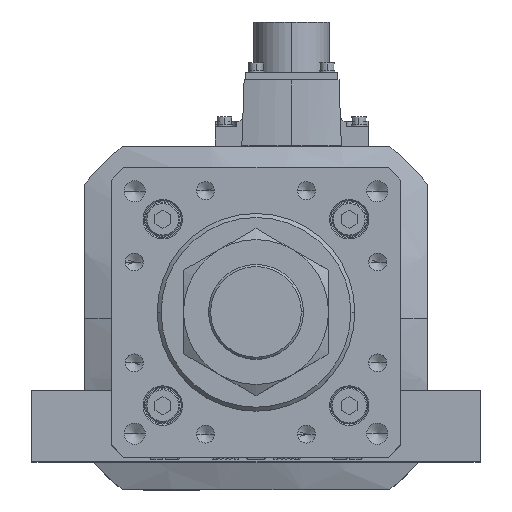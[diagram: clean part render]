
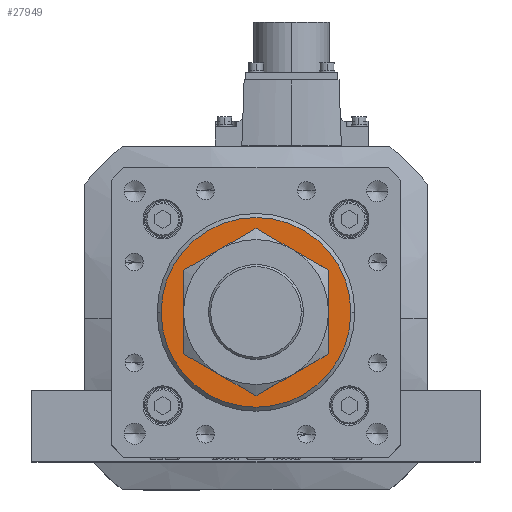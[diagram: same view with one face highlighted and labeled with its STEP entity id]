
A CAD part, top view. The second image highlights one B-rep face of the part: STEP entity #27949.
In plain terms, the highlighted planar face has unit normal (0, 0, 1).
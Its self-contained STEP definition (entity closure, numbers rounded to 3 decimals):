
#148 = DIRECTION ( 'NONE',  ( 1., 0., 0. ) ) ;
#911 = CARTESIAN_POINT ( 'NONE',  ( 0., 0., 996. ) ) ;
#1207 = CARTESIAN_POINT ( 'NONE',  ( 0., 0., 996. ) ) ;
#2397 = ORIENTED_EDGE ( 'NONE', *, *, #20909, .T. ) ;
#3835 = VERTEX_POINT ( 'NONE', #30358 ) ;
#4086 = AXIS2_PLACEMENT_3D ( 'NONE', #28164, #4189, #21785 ) ;
#4189 = DIRECTION ( 'NONE',  ( 0., 0., -1. ) ) ;
#4299 = DIRECTION ( 'NONE',  ( 0., 0., -1. ) ) ;
#5306 = EDGE_CURVE ( 'NONE', #31502, #10320, #12762, .T. ) ;
#5630 = EDGE_LOOP ( 'NONE', ( #34093, #13855 ) ) ;
#6284 = EDGE_CURVE ( 'NONE', #10320, #31502, #38410, .T. ) ;
#8567 = CARTESIAN_POINT ( 'NONE',  ( -36., 0., 996. ) ) ;
#8834 = FACE_BOUND ( 'NONE', #16236, .T. ) ;
#9159 = VERTEX_POINT ( 'NONE', #36026 ) ;
#9323 = AXIS2_PLACEMENT_3D ( 'NONE', #1207, #24652, #21786 ) ;
#10320 = VERTEX_POINT ( 'NONE', #21295 ) ;
#12283 = CIRCLE ( 'NONE', #35893, 23. ) ;
#12314 = CARTESIAN_POINT ( 'NONE',  ( 0., 0., 996. ) ) ;
#12762 = CIRCLE ( 'NONE', #16257, 36. ) ;
#13855 = ORIENTED_EDGE ( 'NONE', *, *, #6284, .T. ) ;
#15339 = FACE_OUTER_BOUND ( 'NONE', #5630, .T. ) ;
#16236 = EDGE_LOOP ( 'NONE', ( #2397, #16919 ) ) ;
#16257 = AXIS2_PLACEMENT_3D ( 'NONE', #36646, #19400, #26006 ) ;
#16919 = ORIENTED_EDGE ( 'NONE', *, *, #36126, .T. ) ;
#19400 = DIRECTION ( 'NONE',  ( 0., 0., 1. ) ) ;
#20853 = PLANE ( 'NONE',  #21687 ) ;
#20909 = EDGE_CURVE ( 'NONE', #3835, #9159, #12283, .T. ) ;
#21295 = CARTESIAN_POINT ( 'NONE',  ( 36., 0., 996. ) ) ;
#21687 = AXIS2_PLACEMENT_3D ( 'NONE', #12314, #35905, #148 ) ;
#21785 = DIRECTION ( 'NONE',  ( 1., 0., 0. ) ) ;
#21786 = DIRECTION ( 'NONE',  ( 1., 0., 0. ) ) ;
#23858 = CIRCLE ( 'NONE', #4086, 23. ) ;
#24652 = DIRECTION ( 'NONE',  ( 0., 0., 1. ) ) ;
#26006 = DIRECTION ( 'NONE',  ( 1., 0., 0. ) ) ;
#27949 = ADVANCED_FACE ( 'NONE', ( #8834, #15339 ), #20853, .T. ) ;
#28164 = CARTESIAN_POINT ( 'NONE',  ( 0., 0., 996. ) ) ;
#30358 = CARTESIAN_POINT ( 'NONE',  ( 23., 0., 996. ) ) ;
#30594 = DIRECTION ( 'NONE',  ( 1., 0., 0. ) ) ;
#31502 = VERTEX_POINT ( 'NONE', #8567 ) ;
#34093 = ORIENTED_EDGE ( 'NONE', *, *, #5306, .T. ) ;
#35893 = AXIS2_PLACEMENT_3D ( 'NONE', #911, #4299, #30594 ) ;
#35905 = DIRECTION ( 'NONE',  ( 0., 0., 1. ) ) ;
#36026 = CARTESIAN_POINT ( 'NONE',  ( -23., 0., 996. ) ) ;
#36126 = EDGE_CURVE ( 'NONE', #9159, #3835, #23858, .T. ) ;
#36646 = CARTESIAN_POINT ( 'NONE',  ( 0., 0., 996. ) ) ;
#38410 = CIRCLE ( 'NONE', #9323, 36. ) ;
